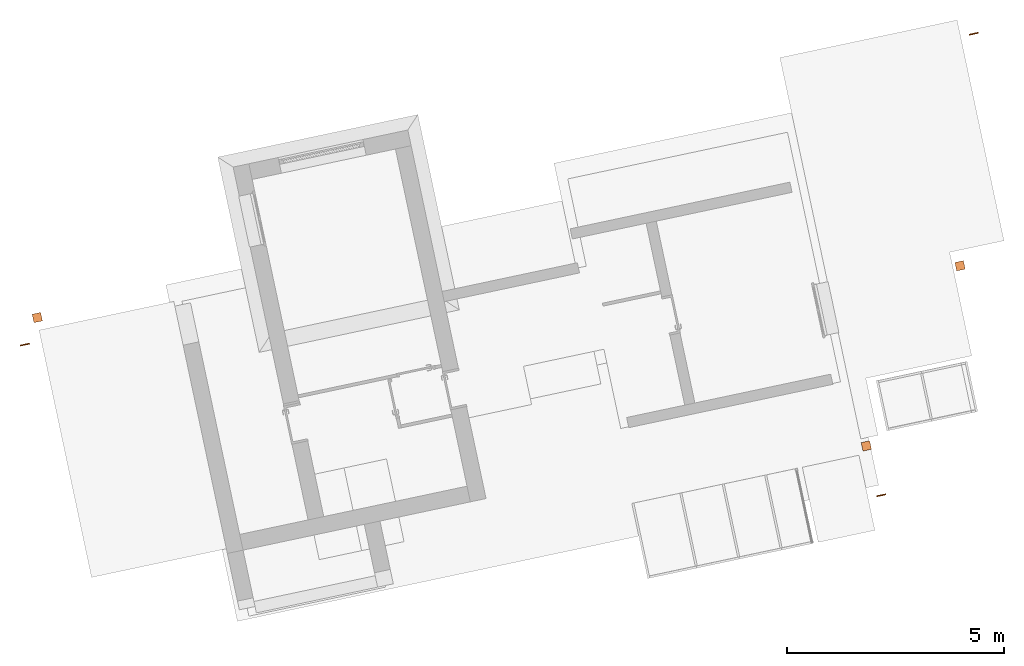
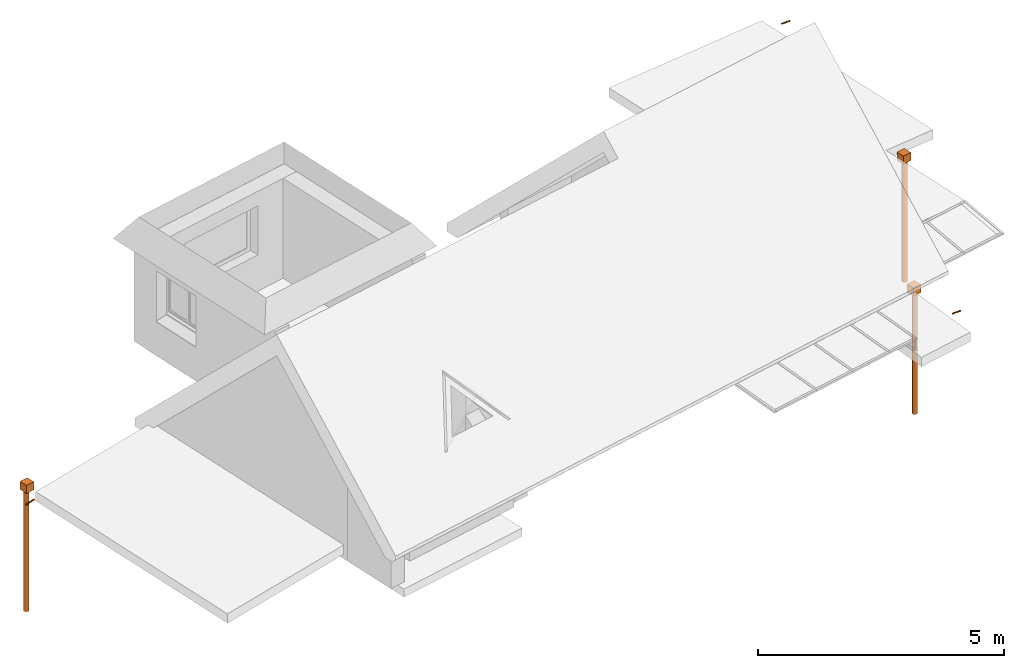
# One storey, part 10 of 10: 6 proxies.
"""IFC2X3 building model written with IfcOpenShell, lengths in centimetres."""

from ifc_helpers import new_model, entity, si_unit, converted_unit, derived_unit, direction, frame, frame_2d, origin, origin_2d_with_axis, place, context, subcontext, project, spatial, rectangle, circle, hollow_circle, extrude, source, transform, mapped, material, type_object, type_shapes, element, save


model = new_model("IFC2X3")

# Units and contexts
model_context = context("Model", 3, precision=0.001, world=origin(), true_north=direction((6.12303176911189e-17, 1.0)))
body_context = subcontext(model_context, "Body", "Model", "MODEL_VIEW")
ifc_project = project(units=[si_unit("LENGTHUNIT", "METRE", prefix="CENTI"), si_unit("AREAUNIT", "SQUARE_METRE"), si_unit("VOLUMEUNIT", "CUBIC_METRE"), converted_unit("PLANEANGLEUNIT", "DEGREE", entity("IfcRatioMeasure", 0.0174532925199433), si_unit("PLANEANGLEUNIT", "RADIAN"), dimensions=[0, 0, 0, 0, 0, 0, 0]), si_unit("MASSUNIT", "GRAM", prefix="KILO"), derived_unit("MASSDENSITYUNIT", [(si_unit("MASSUNIT", "GRAM", prefix="KILO"), 1), (si_unit("LENGTHUNIT", "METRE"), -3)]), derived_unit("IONCONCENTRATIONUNIT", [(si_unit("MASSUNIT", "GRAM", prefix="KILO"), 1), (si_unit("LENGTHUNIT", "METRE"), -3)]), derived_unit("MOMENTOFINERTIAUNIT", [(si_unit("LENGTHUNIT", "METRE"), 4)]), si_unit("TIMEUNIT", "SECOND"), si_unit("FREQUENCYUNIT", "HERTZ"), si_unit("THERMODYNAMICTEMPERATUREUNIT", "DEGREE_CELSIUS"), derived_unit("THERMALTRANSMITTANCEUNIT", [(si_unit("MASSUNIT", "GRAM", prefix="KILO"), 1), (si_unit("THERMODYNAMICTEMPERATUREUNIT", "KELVIN"), -1), (si_unit("TIMEUNIT", "SECOND"), -3)]), derived_unit("THERMALCONDUCTANCEUNIT", [(si_unit("MASSUNIT", "GRAM", prefix="KILO"), 1), (si_unit("THERMODYNAMICTEMPERATUREUNIT", "KELVIN"), -1), (si_unit("TIMEUNIT", "SECOND"), -3), (si_unit("LENGTHUNIT", "METRE"), 1)]), derived_unit("VOLUMETRICFLOWRATEUNIT", [(si_unit("LENGTHUNIT", "METRE"), 3), (si_unit("TIMEUNIT", "SECOND"), -1)]), derived_unit("MASSFLOWRATEUNIT", [(si_unit("MASSUNIT", "GRAM", prefix="KILO"), 1), (si_unit("TIMEUNIT", "SECOND"), -1)]), derived_unit("ROTATIONALFREQUENCYUNIT", [(si_unit("TIMEUNIT", "SECOND"), -1)]), si_unit("ELECTRICCURRENTUNIT", "AMPERE"), si_unit("ELECTRICVOLTAGEUNIT", "VOLT"), si_unit("POWERUNIT", "WATT"), si_unit("FORCEUNIT", "NEWTON", prefix="KILO"), si_unit("ILLUMINANCEUNIT", "LUX"), si_unit("LUMINOUSFLUXUNIT", "LUMEN"), si_unit("LUMINOUSINTENSITYUNIT", "CANDELA"), derived_unit("USERDEFINED", [(si_unit("MASSUNIT", "GRAM", prefix="KILO"), -1), (si_unit("LENGTHUNIT", "METRE"), -2), (si_unit("TIMEUNIT", "SECOND"), 3), (si_unit("LUMINOUSFLUXUNIT", "LUMEN"), 1)]), derived_unit("USERDEFINED", [(si_unit("MASSUNIT", "GRAM", prefix="KILO"), 1), (si_unit("TIMEUNIT", "SECOND"), -3), (si_unit("LENGTHUNIT", "METRE"), 3), (si_unit("ELECTRICCURRENTUNIT", "AMPERE"), -2)]), derived_unit("SOUNDPOWERUNIT", [(si_unit("MASSUNIT", "GRAM", prefix="KILO"), 1), (si_unit("TIMEUNIT", "SECOND"), -3), (si_unit("LENGTHUNIT", "METRE"), 2)]), derived_unit("SOUNDPRESSUREUNIT", [(si_unit("MASSUNIT", "GRAM", prefix="KILO"), 1), (si_unit("LENGTHUNIT", "METRE"), -1), (si_unit("TIMEUNIT", "SECOND"), -2)]), derived_unit("LINEARVELOCITYUNIT", [(si_unit("LENGTHUNIT", "METRE"), 1), (si_unit("TIMEUNIT", "SECOND"), -1)]), si_unit("PRESSUREUNIT", "PASCAL"), derived_unit("USERDEFINED", [(si_unit("MASSUNIT", "GRAM", prefix="KILO"), 1), (si_unit("LENGTHUNIT", "METRE"), -2), (si_unit("TIMEUNIT", "SECOND"), -2)]), derived_unit("LINEARFORCEUNIT", [(si_unit("MASSUNIT", "GRAM", prefix="KILO"), 1), (si_unit("TIMEUNIT", "SECOND"), -2)]), derived_unit("PLANARFORCEUNIT", [(si_unit("MASSUNIT", "GRAM", prefix="KILO"), 1), (si_unit("LENGTHUNIT", "METRE"), -1), (si_unit("TIMEUNIT", "SECOND"), -2)]), derived_unit("SPECIFICHEATCAPACITYUNIT", [(si_unit("THERMODYNAMICTEMPERATUREUNIT", "KELVIN"), -1), (si_unit("LENGTHUNIT", "METRE"), 2), (si_unit("TIMEUNIT", "SECOND"), -2)]), derived_unit("HEATINGVALUEUNIT", [(si_unit("LENGTHUNIT", "METRE"), 2), (si_unit("TIMEUNIT", "SECOND"), -2)]), derived_unit("VAPORPERMEABILITYUNIT", [(si_unit("LENGTHUNIT", "METRE"), -1), (si_unit("TIMEUNIT", "SECOND"), 1)]), derived_unit("DYNAMICVISCOSITYUNIT", [(si_unit("MASSUNIT", "GRAM", prefix="KILO"), 1), (si_unit("TIMEUNIT", "SECOND"), -1), (si_unit("LENGTHUNIT", "METRE"), -1)]), derived_unit("THERMALEXPANSIONCOEFFICIENTUNIT", [(si_unit("THERMODYNAMICTEMPERATUREUNIT", "KELVIN"), -1)]), derived_unit("MODULUSOFELASTICITYUNIT", [(si_unit("MASSUNIT", "GRAM", prefix="KILO"), 1), (si_unit("LENGTHUNIT", "METRE"), -1), (si_unit("TIMEUNIT", "SECOND"), -2)]), derived_unit("ISOTHERMALMOISTURECAPACITYUNIT", [(si_unit("LENGTHUNIT", "METRE"), 3), (si_unit("MASSUNIT", "GRAM", prefix="KILO"), -1)]), derived_unit("MOISTUREDIFFUSIVITYUNIT", [(si_unit("TIMEUNIT", "SECOND"), -1), (si_unit("LENGTHUNIT", "METRE"), 2)])], contexts=[model_context])

# Site, building, storey
site_placement = place(None, frame((14083.8920177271, -6853.25409548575, 6900.0), z_axis=(0.0, 0.0, 1.0), x_axis=(0.978188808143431, 0.207717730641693, 0.0)))
site = spatial("IfcSite", under=ifc_project, at=site_placement, Name="Surface", CompositionType="ELEMENT")
building_placement = place(site_placement, origin())
building = spatial("IfcBuilding", under=site, at=building_placement, CompositionType="ELEMENT")
storey_placement = place(building_placement, frame((0.0, 0.0, 289.0)))
storey = spatial("IfcBuildingStorey", under=building, at=storey_placement, Name="_R+1", CompositionType="ELEMENT", Elevation=289.0)

# Proxies
ifc_material_1 = material(Name="__ ALU_ton gris (descentes EP)")
building_element_proxy_type_1 = type_object("IfcBuildingElementProxyType", Name="RES_EP - BOITE A EAU:Descente EP _Alu gris clair", PredefinedType="NOTDEFINED", material=ifc_material_1)
shared_shape_1 = source(origin(), body_context, "Body", "SweptSolid", [
    extrude(circle(Radius=5.99999999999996, at=frame_2d((-5.27446768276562e-17, -1.01518793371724e-14), x_axis=(1.0, 0.0))), frame((0.0, -10.0, -300.0)), (0.0, 0.0, 1.0), 300.0),
    extrude(rectangle(XDim=20.0, YDim=20.0, at=origin_2d_with_axis()), frame((0.0, -12.0, 0.0), z_axis=(0.0, 0.0, 1.0), x_axis=(0.0, 1.0, 0.0)), (0.0, 0.0, 1.0), 20.0),
])
type_shapes(building_element_proxy_type_1, [shared_shape_1])
proxy_1_placement = place(storey_placement, frame((-8052.7551432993, 15480.9391445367, 0.0)))
element("IfcBuildingElementProxy", 1, at=proxy_1_placement, inside=storey, type_object=building_element_proxy_type_1, material=ifc_material_1, Name="RES_EP - BOITE A EAU:Descente EP _Alu gris clair", ObjectType="RES_EP - BOITE A EAU:Descente EP _Alu gris clair", context=body_context, shape_type="MappedRepresentation", body=[
    mapped(shared_shape_1, transform((0.0, 0.0, 0.0), scale=1.0)),
])
for number, where, z_axis, x_axis in (
    (2, (-5933.99345684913, 15143.6673447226, 0.0), (0.0, 0.0, 1.0), (0.0, -1.0, 0.0)),
    (3, (-6231.81321908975, 14782.1473447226, 0.0), (0.0, 0.0, 1.0), (0.0, -1.0, 0.0)),
):
    element("IfcBuildingElementProxy", number, at=place(storey_placement, frame(where, z_axis=z_axis, x_axis=x_axis)), inside=storey, type_object=building_element_proxy_type_1, material=ifc_material_1, Name="RES_EP - BOITE A EAU:Descente EP _Alu gris clair", ObjectType="RES_EP - BOITE A EAU:Descente EP _Alu gris clair", context=body_context, shape_type="MappedRepresentation", body=[
        mapped(shared_shape_1, transform((0.0, 0.0, 0.0), scale=1.0)),
    ])
ifc_material_2 = material(Name="<Unnamed>")
building_element_proxy_type_2 = type_object("IfcBuildingElementProxyType", Name="RES_EP - BARBACANE:5x20", PredefinedType="NOTDEFINED", material=ifc_material_2)
shared_shape_2 = source(origin(), body_context, "Body", "SweptSolid", [
    extrude(hollow_circle(Radius=1.8, WallThickness=0.3, at=frame_2d((-7.00301819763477e-17, -8.10779180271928e-15), x_axis=(1.0, 0.0))), frame((-0.250511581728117, 0.0, 0.0), z_axis=(0.99026806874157, 0.0, -0.139173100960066), x_axis=(0.0, 1.0, 0.0)), (0.0, 0.0, 1.0), 22.5),
])
type_shapes(building_element_proxy_type_2, [shared_shape_2])
proxy_2_placement = place(storey_placement, frame((-8082.7551432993, 15413.9391445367, 18.5940945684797), z_axis=(0.0, 0.0, 1.0), x_axis=(-1.0, 0.0, 0.0)))
element("IfcBuildingElementProxy", 4, at=proxy_2_placement, inside=storey, type_object=building_element_proxy_type_2, material=ifc_material_2, Name="RES_EP - BARBACANE:5x20", ObjectType="RES_EP - BARBACANE:5x20", context=body_context, shape_type="MappedRepresentation", body=[
    mapped(shared_shape_2, transform((0.0, 0.0, 0.0), scale=1.0)),
])
for number, where, name in (
    (5, (-6244.81321908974, 14663.6324526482, 9.40612439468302), "RES_EP - BARBACANE:5x20"),
    (6, (-5814.81321908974, 15660.6673447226, 8.67664857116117), "RES_EP - BARBACANE:5x20"),
):
    element("IfcBuildingElementProxy", number, at=place(storey_placement, frame(where)), inside=storey, type_object=building_element_proxy_type_2, material=ifc_material_2, Name=name, ObjectType="RES_EP - BARBACANE:5x20", context=body_context, shape_type="MappedRepresentation", body=[
        mapped(shared_shape_2, transform((0.0, 0.0, 0.0), scale=1.0)),
    ])

save(model, "model.ifc")
